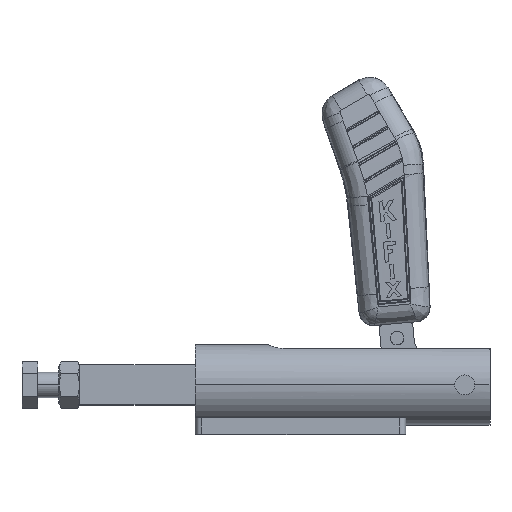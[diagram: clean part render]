
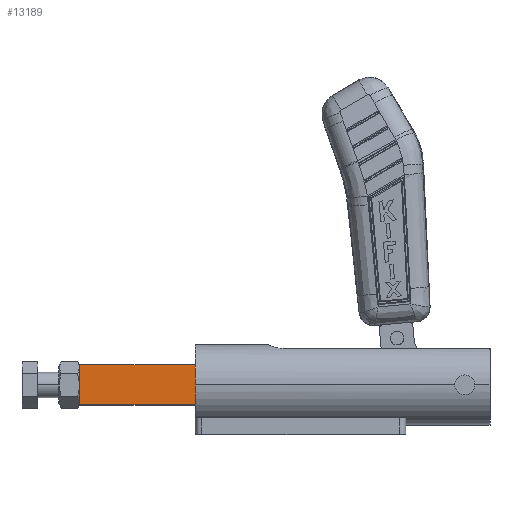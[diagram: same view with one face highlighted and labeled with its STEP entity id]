
A CAD part, top view. The second image highlights one B-rep face of the part: STEP entity #13189.
In plain terms, the highlighted planar face has unit normal (0, 0, 1).
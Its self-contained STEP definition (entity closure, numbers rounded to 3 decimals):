
#259 = EDGE_LOOP ( 'NONE', ( #14034, #16636, #17272, #24204 ) ) ;
#1231 = EDGE_CURVE ( 'NONE', #8377, #13412, #1655, .T. ) ;
#1439 = LINE ( 'NONE', #3440, #20944 ) ;
#1655 = CIRCLE ( 'NONE', #5447, 5.5 ) ;
#2558 = CARTESIAN_POINT ( 'NONE',  ( 25.75, 0., 9.525 ) ) ;
#2931 = LINE ( 'NONE', #22551, #17974 ) ;
#3440 = CARTESIAN_POINT ( 'NONE',  ( 59.75, 9.525, 9.525 ) ) ;
#3772 = CARTESIAN_POINT ( 'NONE',  ( 59.75, 9.525, 9.525 ) ) ;
#4437 = DIRECTION ( 'NONE',  ( 0., 1., 0. ) ) ;
#5447 = AXIS2_PLACEMENT_3D ( 'NONE', #20929, #19011, #22833 ) ;
#5644 = DIRECTION ( 'NONE',  ( 0., 0., -1. ) ) ;
#6434 = LINE ( 'NONE', #14601, #15872 ) ;
#6816 = CARTESIAN_POINT ( 'NONE',  ( -59.75, 9.525, 9.525 ) ) ;
#7368 = VERTEX_POINT ( 'NONE', #19806 ) ;
#8377 = VERTEX_POINT ( 'NONE', #20530 ) ;
#8934 = DIRECTION ( 'NONE',  ( -1., 0., 0. ) ) ;
#9280 = DIRECTION ( 'NONE',  ( 0., -1., 0. ) ) ;
#11739 = EDGE_LOOP ( 'NONE', ( #18637, #14201 ) ) ;
#12826 = EDGE_CURVE ( 'NONE', #13412, #8377, #15155, .T. ) ;
#13189 = ADVANCED_FACE ( 'NONE', ( #19300, #14852 ), #15059, .F. ) ;
#13412 = VERTEX_POINT ( 'NONE', #16005 ) ;
#13495 = AXIS2_PLACEMENT_3D ( 'NONE', #3772, #5644, #18874 ) ;
#14034 = ORIENTED_EDGE ( 'NONE', *, *, #17131, .T. ) ;
#14201 = ORIENTED_EDGE ( 'NONE', *, *, #12826, .T. ) ;
#14423 = AXIS2_PLACEMENT_3D ( 'NONE', #2558, #15721, #4437 ) ;
#14601 = CARTESIAN_POINT ( 'NONE',  ( 59.75, 9.525, 9.525 ) ) ;
#14852 = FACE_OUTER_BOUND ( 'NONE', #259, .T. ) ;
#15059 = PLANE ( 'NONE',  #13495 ) ;
#15155 = CIRCLE ( 'NONE', #14423, 5.5 ) ;
#15721 = DIRECTION ( 'NONE',  ( 0., 0., -1. ) ) ;
#15872 = VECTOR ( 'NONE', #16488, 1000. ) ;
#16005 = CARTESIAN_POINT ( 'NONE',  ( 20.25, 0., 9.525 ) ) ;
#16488 = DIRECTION ( 'NONE',  ( 0., -1., 0. ) ) ;
#16603 = VERTEX_POINT ( 'NONE', #19681 ) ;
#16636 = ORIENTED_EDGE ( 'NONE', *, *, #19407, .F. ) ;
#17057 = LINE ( 'NONE', #22223, #22129 ) ;
#17131 = EDGE_CURVE ( 'NONE', #22127, #16603, #2931, .T. ) ;
#17272 = ORIENTED_EDGE ( 'NONE', *, *, #18787, .F. ) ;
#17974 = VECTOR ( 'NONE', #9280, 1000. ) ;
#18637 = ORIENTED_EDGE ( 'NONE', *, *, #1231, .T. ) ;
#18787 = EDGE_CURVE ( 'NONE', #7368, #23307, #6434, .T. ) ;
#18874 = DIRECTION ( 'NONE',  ( 0., 1., 0. ) ) ;
#19011 = DIRECTION ( 'NONE',  ( 0., 0., -1. ) ) ;
#19300 = FACE_BOUND ( 'NONE', #11739, .T. ) ;
#19407 = EDGE_CURVE ( 'NONE', #23307, #16603, #17057, .T. ) ;
#19445 = EDGE_CURVE ( 'NONE', #7368, #22127, #1439, .T. ) ;
#19681 = CARTESIAN_POINT ( 'NONE',  ( -59.75, -9.525, 9.525 ) ) ;
#19806 = CARTESIAN_POINT ( 'NONE',  ( 59.75, 9.525, 9.525 ) ) ;
#20478 = DIRECTION ( 'NONE',  ( -1., 0., 0. ) ) ;
#20530 = CARTESIAN_POINT ( 'NONE',  ( 31.25, 0., 9.525 ) ) ;
#20929 = CARTESIAN_POINT ( 'NONE',  ( 25.75, 0., 9.525 ) ) ;
#20944 = VECTOR ( 'NONE', #20478, 1000. ) ;
#21087 = CARTESIAN_POINT ( 'NONE',  ( 59.75, -9.525, 9.525 ) ) ;
#22127 = VERTEX_POINT ( 'NONE', #6816 ) ;
#22129 = VECTOR ( 'NONE', #8934, 1000. ) ;
#22223 = CARTESIAN_POINT ( 'NONE',  ( 59.75, -9.525, 9.525 ) ) ;
#22551 = CARTESIAN_POINT ( 'NONE',  ( -59.75, 9.525, 9.525 ) ) ;
#22833 = DIRECTION ( 'NONE',  ( 0., 1., 0. ) ) ;
#23307 = VERTEX_POINT ( 'NONE', #21087 ) ;
#24204 = ORIENTED_EDGE ( 'NONE', *, *, #19445, .T. ) ;
